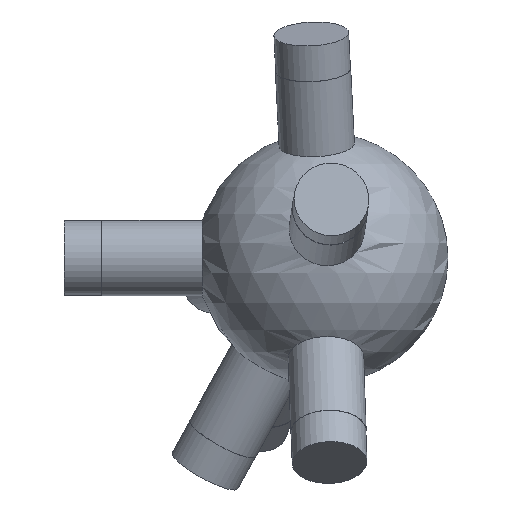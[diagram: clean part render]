
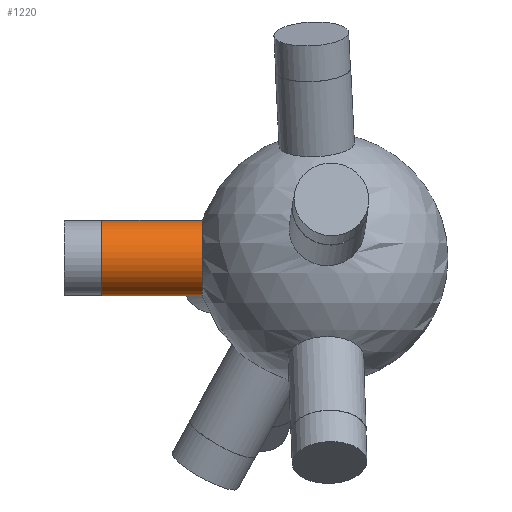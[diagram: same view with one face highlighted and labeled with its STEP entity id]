
A CAD part, front view. The second image highlights one B-rep face of the part: STEP entity #1220.
In plain terms, the highlighted cylindrical face has radius 6 mm (diameter 12 mm), a full revolution.
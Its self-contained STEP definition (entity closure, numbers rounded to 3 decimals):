
#37 = SPHERICAL_SURFACE('',#38,20.);
#38 = AXIS2_PLACEMENT_3D('',#39,#40,#41);
#39 = CARTESIAN_POINT('',(0.,0.,0.));
#40 = DIRECTION('',(0.,0.,1.));
#41 = DIRECTION('',(1.,0.,-0.));
#514 = EDGE_CURVE('',#515,#515,#517,.T.);
#515 = VERTEX_POINT('',#516);
#516 = CARTESIAN_POINT('',(-19.079,0.,
    -6.));
#517 = SURFACE_CURVE('',#518,(#523,#578),.PCURVE_S1.);
#518 = CIRCLE('',#519,6.);
#519 = AXIS2_PLACEMENT_3D('',#520,#521,#522);
#520 = CARTESIAN_POINT('',(-19.079,0.,
    0.));
#521 = DIRECTION('',(-1.,0.,0.));
#522 = DIRECTION('',(0.,0.,-1.));
#523 = PCURVE('',#37,#524);
#524 = DEFINITIONAL_REPRESENTATION('',(#525),#577);
#525 = B_SPLINE_CURVE_WITH_KNOTS('',8,(#526,#527,#528,#529,#530,#531,
    #532,#533,#534,#535,#536,#537,#538,#539,#540,#541,#542,#543,#544,
    #545,#546,#547,#548,#549,#550,#551,#552,#553,#554,#555,#556,#557,
    #558,#559,#560,#561,#562,#563,#564,#565,#566,#567,#568,#569,#570,
    #571,#572,#573,#574,#575,#576),.UNSPECIFIED.,.F.,.F.,(9,7,7,7,7,7,7,
    9),(0.,0.785,1.473,2.675,3.577,
    4.254,5.268,6.283),.UNSPECIFIED.);
#526 = CARTESIAN_POINT('',(3.142,-0.305));
#527 = CARTESIAN_POINT('',(3.172,-0.305));
#528 = CARTESIAN_POINT('',(3.203,-0.301));
#529 = CARTESIAN_POINT('',(3.234,-0.294));
#530 = CARTESIAN_POINT('',(3.263,-0.284));
#531 = CARTESIAN_POINT('',(3.291,-0.271));
#532 = CARTESIAN_POINT('',(3.316,-0.254));
#533 = CARTESIAN_POINT('',(3.34,-0.235));
#534 = CARTESIAN_POINT('',(3.379,-0.195));
#535 = CARTESIAN_POINT('',(3.395,-0.175));
#536 = CARTESIAN_POINT('',(3.409,-0.153));
#537 = CARTESIAN_POINT('',(3.421,-0.13));
#538 = CARTESIAN_POINT('',(3.43,-0.105));
#539 = CARTESIAN_POINT('',(3.438,-0.08));
#540 = CARTESIAN_POINT('',(3.442,-0.055));
#541 = CARTESIAN_POINT('',(3.449,0.015));
#542 = CARTESIAN_POINT('',(3.446,0.061));
#543 = CARTESIAN_POINT('',(3.435,0.106));
#544 = CARTESIAN_POINT('',(3.417,0.149));
#545 = CARTESIAN_POINT('',(3.392,0.188));
#546 = CARTESIAN_POINT('',(3.361,0.222));
#547 = CARTESIAN_POINT('',(3.323,0.25));
#548 = CARTESIAN_POINT('',(3.251,0.287));
#549 = CARTESIAN_POINT('',(3.218,0.299));
#550 = CARTESIAN_POINT('',(3.183,0.306));
#551 = CARTESIAN_POINT('',(3.147,0.309));
#552 = CARTESIAN_POINT('',(3.11,0.307));
#553 = CARTESIAN_POINT('',(3.075,0.301));
#554 = CARTESIAN_POINT('',(3.041,0.29));
#555 = CARTESIAN_POINT('',(2.986,0.264));
#556 = CARTESIAN_POINT('',(2.964,0.251));
#557 = CARTESIAN_POINT('',(2.943,0.235));
#558 = CARTESIAN_POINT('',(2.923,0.218));
#559 = CARTESIAN_POINT('',(2.906,0.199));
#560 = CARTESIAN_POINT('',(2.891,0.178));
#561 = CARTESIAN_POINT('',(2.878,0.156));
#562 = CARTESIAN_POINT('',(2.85,0.099));
#563 = CARTESIAN_POINT('',(2.839,0.062));
#564 = CARTESIAN_POINT('',(2.833,0.024));
#565 = CARTESIAN_POINT('',(2.832,-0.015));
#566 = CARTESIAN_POINT('',(2.836,-0.053));
#567 = CARTESIAN_POINT('',(2.846,-0.091));
#568 = CARTESIAN_POINT('',(2.861,-0.126));
#569 = CARTESIAN_POINT('',(2.9,-0.192));
#570 = CARTESIAN_POINT('',(2.925,-0.222));
#571 = CARTESIAN_POINT('',(2.954,-0.248));
#572 = CARTESIAN_POINT('',(2.987,-0.27));
#573 = CARTESIAN_POINT('',(3.023,-0.287));
#574 = CARTESIAN_POINT('',(3.062,-0.299));
#575 = CARTESIAN_POINT('',(3.102,-0.305));
#576 = CARTESIAN_POINT('',(3.142,-0.305));
#577 = ( GEOMETRIC_REPRESENTATION_CONTEXT(2) 
PARAMETRIC_REPRESENTATION_CONTEXT() REPRESENTATION_CONTEXT('2D SPACE',''
  ) );
#578 = PCURVE('',#579,#584);
#579 = CYLINDRICAL_SURFACE('',#580,6.);
#580 = AXIS2_PLACEMENT_3D('',#581,#582,#583);
#581 = CARTESIAN_POINT('',(0.,0.,0.));
#582 = DIRECTION('',(-1.,0.,0.));
#583 = DIRECTION('',(0.,0.,-1.));
#584 = DEFINITIONAL_REPRESENTATION('',(#585),#589);
#585 = LINE('',#586,#587);
#586 = CARTESIAN_POINT('',(0.,19.079));
#587 = VECTOR('',#588,1.);
#588 = DIRECTION('',(1.,0.));
#589 = ( GEOMETRIC_REPRESENTATION_CONTEXT(2) 
PARAMETRIC_REPRESENTATION_CONTEXT() REPRESENTATION_CONTEXT('2D SPACE',''
  ) );
#1220 = ADVANCED_FACE('',(#1221),#579,.T.);
#1221 = FACE_BOUND('',#1222,.T.);
#1222 = EDGE_LOOP('',(#1223,#1246,#1273,#1274));
#1223 = ORIENTED_EDGE('',*,*,#1224,.T.);
#1224 = EDGE_CURVE('',#515,#1225,#1227,.T.);
#1225 = VERTEX_POINT('',#1226);
#1226 = CARTESIAN_POINT('',(-35.109,0.,
    -6.));
#1227 = SEAM_CURVE('',#1228,(#1232,#1239),.PCURVE_S1.);
#1228 = LINE('',#1229,#1230);
#1229 = CARTESIAN_POINT('',(0.,0.,-6.)
  );
#1230 = VECTOR('',#1231,1.);
#1231 = DIRECTION('',(-1.,0.,0.));
#1232 = PCURVE('',#579,#1233);
#1233 = DEFINITIONAL_REPRESENTATION('',(#1234),#1238);
#1234 = LINE('',#1235,#1236);
#1235 = CARTESIAN_POINT('',(6.283,-0.));
#1236 = VECTOR('',#1237,1.);
#1237 = DIRECTION('',(0.,1.));
#1238 = ( GEOMETRIC_REPRESENTATION_CONTEXT(2) 
PARAMETRIC_REPRESENTATION_CONTEXT() REPRESENTATION_CONTEXT('2D SPACE',''
  ) );
#1239 = PCURVE('',#579,#1240);
#1240 = DEFINITIONAL_REPRESENTATION('',(#1241),#1245);
#1241 = LINE('',#1242,#1243);
#1242 = CARTESIAN_POINT('',(0.,-0.));
#1243 = VECTOR('',#1244,1.);
#1244 = DIRECTION('',(0.,1.));
#1245 = ( GEOMETRIC_REPRESENTATION_CONTEXT(2) 
PARAMETRIC_REPRESENTATION_CONTEXT() REPRESENTATION_CONTEXT('2D SPACE',''
  ) );
#1246 = ORIENTED_EDGE('',*,*,#1247,.F.);
#1247 = EDGE_CURVE('',#1225,#1225,#1248,.T.);
#1248 = SURFACE_CURVE('',#1249,(#1254,#1261),.PCURVE_S1.);
#1249 = CIRCLE('',#1250,6.);
#1250 = AXIS2_PLACEMENT_3D('',#1251,#1252,#1253);
#1251 = CARTESIAN_POINT('',(-35.109,0.,
    0.));
#1252 = DIRECTION('',(-1.,0.,0.));
#1253 = DIRECTION('',(0.,0.,-1.));
#1254 = PCURVE('',#579,#1255);
#1255 = DEFINITIONAL_REPRESENTATION('',(#1256),#1260);
#1256 = LINE('',#1257,#1258);
#1257 = CARTESIAN_POINT('',(0.,35.109));
#1258 = VECTOR('',#1259,1.);
#1259 = DIRECTION('',(1.,0.));
#1260 = ( GEOMETRIC_REPRESENTATION_CONTEXT(2) 
PARAMETRIC_REPRESENTATION_CONTEXT() REPRESENTATION_CONTEXT('2D SPACE',''
  ) );
#1261 = PCURVE('',#1262,#1267);
#1262 = PLANE('',#1263);
#1263 = AXIS2_PLACEMENT_3D('',#1264,#1265,#1266);
#1264 = CARTESIAN_POINT('',(-35.109,0.,
    0.));
#1265 = DIRECTION('',(-1.,0.,0.));
#1266 = DIRECTION('',(0.,0.,-1.));
#1267 = DEFINITIONAL_REPRESENTATION('',(#1268),#1272);
#1268 = CIRCLE('',#1269,6.);
#1269 = AXIS2_PLACEMENT_2D('',#1270,#1271);
#1270 = CARTESIAN_POINT('',(0.,0.));
#1271 = DIRECTION('',(1.,0.));
#1272 = ( GEOMETRIC_REPRESENTATION_CONTEXT(2) 
PARAMETRIC_REPRESENTATION_CONTEXT() REPRESENTATION_CONTEXT('2D SPACE',''
  ) );
#1273 = ORIENTED_EDGE('',*,*,#1224,.F.);
#1274 = ORIENTED_EDGE('',*,*,#514,.T.);
